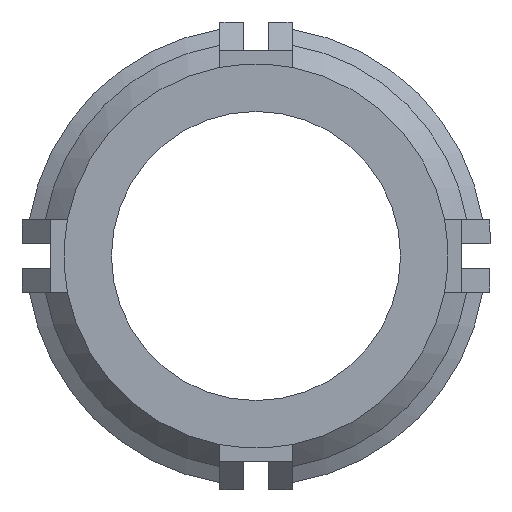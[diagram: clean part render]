
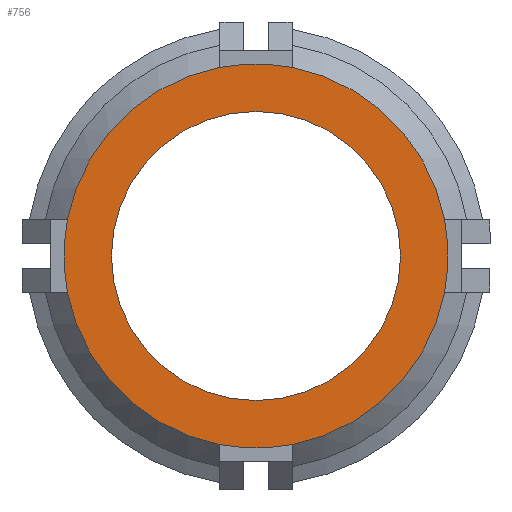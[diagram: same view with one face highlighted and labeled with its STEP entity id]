
A CAD part, front view. The second image highlights one B-rep face of the part: STEP entity #756.
In plain terms, the highlighted planar face has unit normal (0, -1, 0).
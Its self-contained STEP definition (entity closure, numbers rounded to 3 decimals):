
#65 = CARTESIAN_POINT ( 'NONE',  ( 9.132, -20.574, 1.75 ) ) ;
#112 = VERTEX_POINT ( 'NONE', #1376 ) ;
#176 = DIRECTION ( 'NONE',  ( 0., 0., 1. ) ) ;
#191 = VERTEX_POINT ( 'NONE', #1866 ) ;
#201 = DIRECTION ( 'NONE',  ( 0., -1., 0. ) ) ;
#256 = DIRECTION ( 'NONE',  ( 0., 1., 0. ) ) ;
#402 = VERTEX_POINT ( 'NONE', #676 ) ;
#404 = EDGE_LOOP ( 'NONE', ( #5510, #958 ) ) ;
#422 = EDGE_LOOP ( 'NONE', ( #4327, #2727, #2575, #3299, #4924, #2151, #4657, #3051 ) ) ;
#468 = CIRCLE ( 'NONE', #5568, 9.299 ) ;
#676 = CARTESIAN_POINT ( 'NONE',  ( -9.132, -20.574, -1.75 ) ) ;
#720 = VERTEX_POINT ( 'NONE', #4669 ) ;
#721 = AXIS2_PLACEMENT_3D ( 'NONE', #4361, #4390, #1096 ) ;
#736 = DIRECTION ( 'NONE',  ( 0., 0., 1. ) ) ;
#756 = ADVANCED_FACE ( 'NONE', ( #1125, #4357 ), #2971, .F. ) ;
#778 = DIRECTION ( 'NONE',  ( 0., 0., 1. ) ) ;
#918 = AXIS2_PLACEMENT_3D ( 'NONE', #5664, #3378, #176 ) ;
#948 = CARTESIAN_POINT ( 'NONE',  ( 0., -20.574, 0. ) ) ;
#958 = ORIENTED_EDGE ( 'NONE', *, *, #1204, .F. ) ;
#1026 = CIRCLE ( 'NONE', #2580, 9.299 ) ;
#1096 = DIRECTION ( 'NONE',  ( 0., 0., 1. ) ) ;
#1114 = VERTEX_POINT ( 'NONE', #2919 ) ;
#1125 = FACE_BOUND ( 'NONE', #404, .T. ) ;
#1172 = VERTEX_POINT ( 'NONE', #5243 ) ;
#1204 = EDGE_CURVE ( 'NONE', #5141, #720, #2369, .T. ) ;
#1269 = EDGE_CURVE ( 'NONE', #1114, #4219, #3914, .T. ) ;
#1298 = AXIS2_PLACEMENT_3D ( 'NONE', #5691, #201, #736 ) ;
#1376 = CARTESIAN_POINT ( 'NONE',  ( -9.132, -20.574, 1.75 ) ) ;
#1379 = DIRECTION ( 'NONE',  ( 0., 0., 1. ) ) ;
#1433 = DIRECTION ( 'NONE',  ( 0., -1., 0. ) ) ;
#1443 = DIRECTION ( 'NONE',  ( -1., 0., 0. ) ) ;
#1702 = DIRECTION ( 'NONE',  ( 1., 0., 0. ) ) ;
#1866 = CARTESIAN_POINT ( 'NONE',  ( 1.75, -20.574, -9.132 ) ) ;
#1904 = VERTEX_POINT ( 'NONE', #4603 ) ;
#1993 = AXIS2_PLACEMENT_3D ( 'NONE', #3161, #5035, #4127 ) ;
#2097 = DIRECTION ( 'NONE',  ( 0., 0., 1. ) ) ;
#2151 = ORIENTED_EDGE ( 'NONE', *, *, #4787, .T. ) ;
#2369 = CIRCLE ( 'NONE', #1298, 7. ) ;
#2380 = CIRCLE ( 'NONE', #4209, 9.299 ) ;
#2575 = ORIENTED_EDGE ( 'NONE', *, *, #4201, .T. ) ;
#2580 = AXIS2_PLACEMENT_3D ( 'NONE', #3653, #2716, #778 ) ;
#2716 = DIRECTION ( 'NONE',  ( 0., -1., 0. ) ) ;
#2727 = ORIENTED_EDGE ( 'NONE', *, *, #3493, .T. ) ;
#2778 = DIRECTION ( 'NONE',  ( 0., -1., 0. ) ) ;
#2919 = CARTESIAN_POINT ( 'NONE',  ( 9.132, -20.574, -1.75 ) ) ;
#2971 = PLANE ( 'NONE',  #5819 ) ;
#3049 = AXIS2_PLACEMENT_3D ( 'NONE', #4750, #4628, #1379 ) ;
#3051 = ORIENTED_EDGE ( 'NONE', *, *, #4169, .T. ) ;
#3161 = CARTESIAN_POINT ( 'NONE',  ( 0., -20.574, 0. ) ) ;
#3299 = ORIENTED_EDGE ( 'NONE', *, *, #5671, .T. ) ;
#3366 = CIRCLE ( 'NONE', #4137, 9.299 ) ;
#3377 = DIRECTION ( 'NONE',  ( 0., -1., 0. ) ) ;
#3378 = DIRECTION ( 'NONE',  ( 0., -1., 0. ) ) ;
#3436 = CIRCLE ( 'NONE', #721, 9.299 ) ;
#3493 = EDGE_CURVE ( 'NONE', #402, #4099, #3436, .T. ) ;
#3535 = EDGE_CURVE ( 'NONE', #720, #5141, #3822, .T. ) ;
#3632 = CIRCLE ( 'NONE', #4404, 9.299 ) ;
#3653 = CARTESIAN_POINT ( 'NONE',  ( 0., -20.574, 0. ) ) ;
#3663 = EDGE_CURVE ( 'NONE', #1172, #1904, #2380, .T. ) ;
#3733 = CIRCLE ( 'NONE', #3049, 9.299 ) ;
#3768 = DIRECTION ( 'NONE',  ( 0., 0., 1. ) ) ;
#3822 = CIRCLE ( 'NONE', #918, 7. ) ;
#3914 = CIRCLE ( 'NONE', #1993, 9.299 ) ;
#4099 = VERTEX_POINT ( 'NONE', #4467 ) ;
#4107 = CARTESIAN_POINT ( 'NONE',  ( 0., -20.574, -7. ) ) ;
#4127 = DIRECTION ( 'NONE',  ( 0., 0., -1. ) ) ;
#4137 = AXIS2_PLACEMENT_3D ( 'NONE', #948, #3377, #4708 ) ;
#4169 = EDGE_CURVE ( 'NONE', #1904, #112, #3733, .T. ) ;
#4201 = EDGE_CURVE ( 'NONE', #4099, #191, #3632, .T. ) ;
#4209 = AXIS2_PLACEMENT_3D ( 'NONE', #5771, #4941, #1702 ) ;
#4219 = VERTEX_POINT ( 'NONE', #65 ) ;
#4238 = CARTESIAN_POINT ( 'NONE',  ( 0., -20.574, 0. ) ) ;
#4327 = ORIENTED_EDGE ( 'NONE', *, *, #5690, .T. ) ;
#4357 = FACE_OUTER_BOUND ( 'NONE', #422, .T. ) ;
#4361 = CARTESIAN_POINT ( 'NONE',  ( 0., -20.574, 0. ) ) ;
#4390 = DIRECTION ( 'NONE',  ( 0., -1., 0. ) ) ;
#4404 = AXIS2_PLACEMENT_3D ( 'NONE', #4238, #2778, #1443 ) ;
#4467 = CARTESIAN_POINT ( 'NONE',  ( -1.75, -20.574, -9.132 ) ) ;
#4603 = CARTESIAN_POINT ( 'NONE',  ( -1.75, -20.574, 9.132 ) ) ;
#4628 = DIRECTION ( 'NONE',  ( 0., -1., 0. ) ) ;
#4657 = ORIENTED_EDGE ( 'NONE', *, *, #3663, .T. ) ;
#4669 = CARTESIAN_POINT ( 'NONE',  ( 0., -20.574, 7. ) ) ;
#4708 = DIRECTION ( 'NONE',  ( 0., 0., 1. ) ) ;
#4750 = CARTESIAN_POINT ( 'NONE',  ( 0., -20.574, 0. ) ) ;
#4787 = EDGE_CURVE ( 'NONE', #4219, #1172, #1026, .T. ) ;
#4924 = ORIENTED_EDGE ( 'NONE', *, *, #1269, .T. ) ;
#4941 = DIRECTION ( 'NONE',  ( 0., -1., 0. ) ) ;
#5035 = DIRECTION ( 'NONE',  ( 0., -1., 0. ) ) ;
#5141 = VERTEX_POINT ( 'NONE', #4107 ) ;
#5243 = CARTESIAN_POINT ( 'NONE',  ( 1.75, -20.574, 9.132 ) ) ;
#5510 = ORIENTED_EDGE ( 'NONE', *, *, #3535, .F. ) ;
#5568 = AXIS2_PLACEMENT_3D ( 'NONE', #5571, #1433, #3768 ) ;
#5571 = CARTESIAN_POINT ( 'NONE',  ( 0., -20.574, 0. ) ) ;
#5664 = CARTESIAN_POINT ( 'NONE',  ( 0., -20.574, 0. ) ) ;
#5671 = EDGE_CURVE ( 'NONE', #191, #1114, #3366, .T. ) ;
#5690 = EDGE_CURVE ( 'NONE', #112, #402, #468, .T. ) ;
#5691 = CARTESIAN_POINT ( 'NONE',  ( 0., -20.574, 0. ) ) ;
#5768 = CARTESIAN_POINT ( 'NONE',  ( 0., -20.574, 0. ) ) ;
#5771 = CARTESIAN_POINT ( 'NONE',  ( 0., -20.574, 0. ) ) ;
#5819 = AXIS2_PLACEMENT_3D ( 'NONE', #5768, #256, #2097 ) ;
